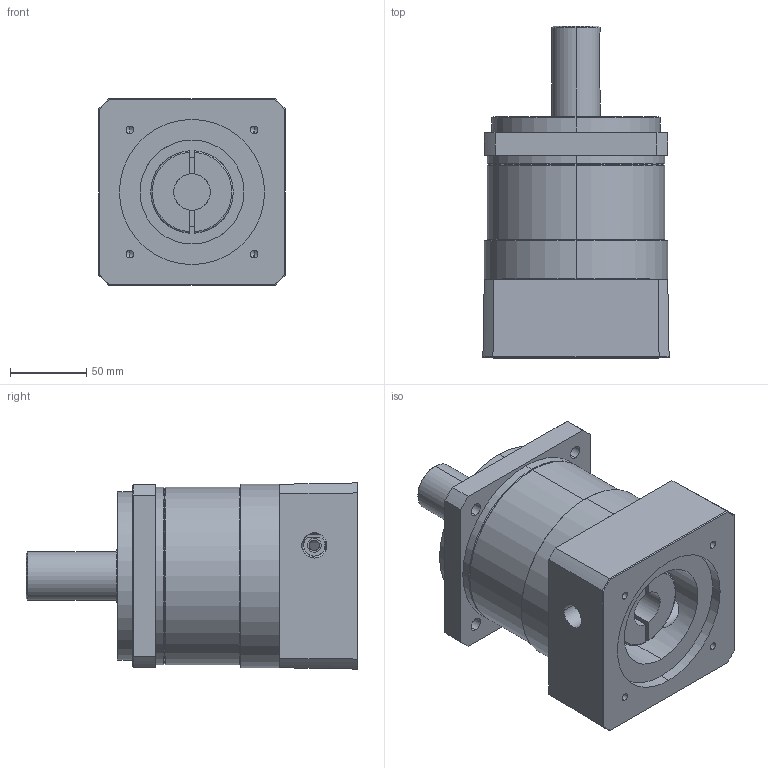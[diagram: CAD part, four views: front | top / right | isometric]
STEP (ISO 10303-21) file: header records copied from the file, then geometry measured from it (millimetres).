
FILE_DESCRIPTION (( 'STEP AP203' ), '1' );
FILE_NAME ('MF120X-L1£r95PCD£r115M6.STEP', '2014-04-16T01:41:33', ( 'KELLY' ), ( '' ), 'SwSTEP 2.0', 'SolidWorks 2012', '' );
FILE_SCHEMA (( 'CONFIG_CONTROL_DESIGN' ));
Length unit declared in the file: millimetre
Products named in the file (1): MF120X-L1｣r95PCD｣r115M6
Bounding box: 121.76 x 217 x 121.76 mm (x, y, z)
Volume: 1750515.1 mm3; surface area: 182951.3 mm2
Topology: 3 solids, 3 shells, 147 faces, 350 edges, 215 vertices
Faces by surface type: cylinder 62, plane 45, cone 36, torus 4
Entity records: 4859 total; most frequent: CARTESIAN_POINT 1355, DIRECTION 742, ORIENTED_EDGE 680, EDGE_CURVE 340, AXIS2_PLACEMENT_3D 300, VERTEX_POINT 215, EDGE_LOOP 183, CIRCLE 152
